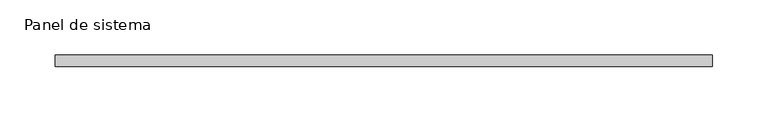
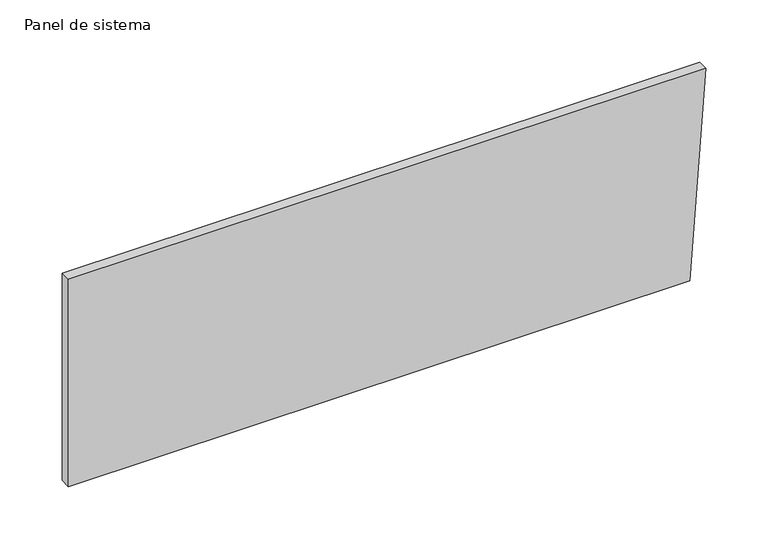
"""IFC4 building model written with IfcOpenShell, lengths in millimetres: plate geometry, Panel de sistema : Acristalado Superor."""

from ifc_helpers import new_model, si_unit, frame, origin, place, context, project, spatial, polyline, outline, extrude, source, transform, mapped, element, save


def panel_de_sistema_576842d0(model_context):
    return source(origin(), model_context, "Body", "SweptSolid", [
        extrude(outline(polyline([(0.0, -296.1211745), (0.0, 281.2488646), (203.5244088, 296.1211745), (203.5244088, -296.1211745), (0.0, -296.1211745)])), frame((0.0, -25.0, 0.0), z_axis=(0.0, 1.0, 0.0), x_axis=(0.0, 0.0, 1.0)), (0.0, 0.0, 1.0), 10.0),
    ])


if __name__ == "__main__":
    model = new_model("IFC4")
    model_context = context("Model", 3, world=origin())
    ifc_project = project(units=[si_unit("LENGTHUNIT", "METRE", prefix="MILLI")], contexts=[model_context])
    site = spatial("IfcSite", under=ifc_project)
    building = spatial("IfcBuilding", under=site)
    placement = place(None, origin())
    panel_de_sistema_shape = panel_de_sistema_576842d0(model_context)
    element("IfcPlate", 1, ObjectType="Panel de sistema : Acristalado Superor", at=placement, inside=building, context=model_context, shape_type="MappedRepresentation", body=[
        mapped(panel_de_sistema_shape, transform((0.0, 0.0, 0.0), x_axis=(1.0, 0.0, 0.0), y_axis=(0.0, 1.0, 0.0), z_axis=(0.0, 0.0, 1.0))),
    ])
    save(model, "model.ifc")
